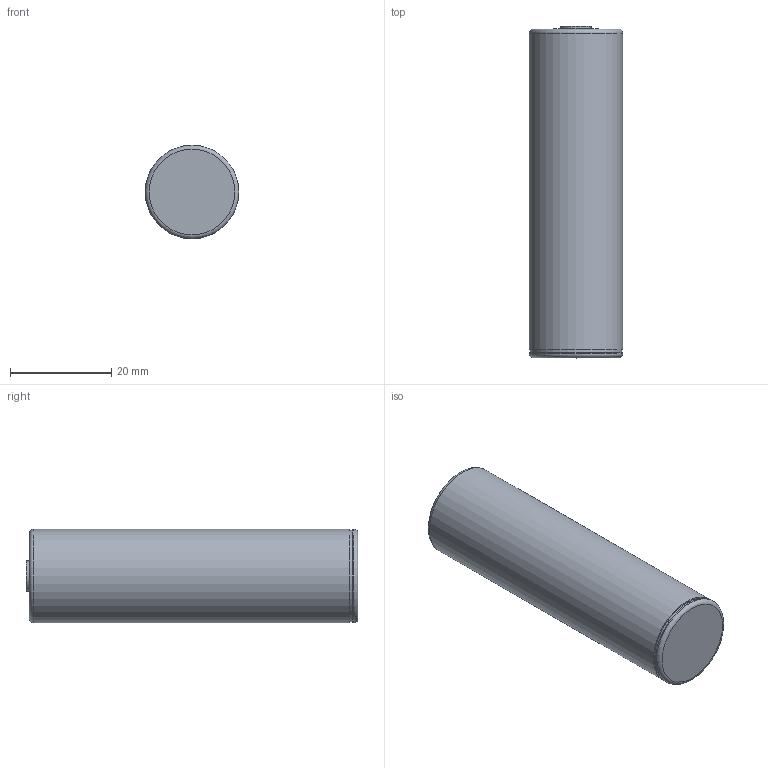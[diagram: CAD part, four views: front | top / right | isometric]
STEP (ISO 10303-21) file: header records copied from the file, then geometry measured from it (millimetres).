
FILE_DESCRIPTION(('Open CASCADE Model'),'2;1');
FILE_NAME('Open CASCADE Shape Model','2026-11-01T16:34:15',('Author'),( 'Open CASCADE'),'Open CASCADE STEP processor 8.0','build123d', 'Unknown');
FILE_SCHEMA(('AUTOMOTIVE_DESIGN { 1 0 10303 214 1 1 1 1 }'));
Length unit declared in the file: millimetre
Products named in the file (1): SOLID
Bounding box: 18.5 x 65.6 x 18.5 mm (x, y, z)
Volume: 17464.9 mm3; surface area: 4313.9 mm2
Topology: 1 solids, 1 shells, 11 faces, 16 edges, 10 vertices
Faces by surface type: plane 5, cylinder 4, torus 2
Full cylindrical faces by diameter (mm): 6 x1, 18 x1, 18.5 x2
Entity records: 460 total; most frequent: DIRECTION 80, CARTESIAN_POINT 74, ORIENTED_EDGE 32, PCURVE 32, DEFINITIONAL_REPRESENTATION 32, AXIS2_PLACEMENT_3D 24, LINE 24, VECTOR 24
